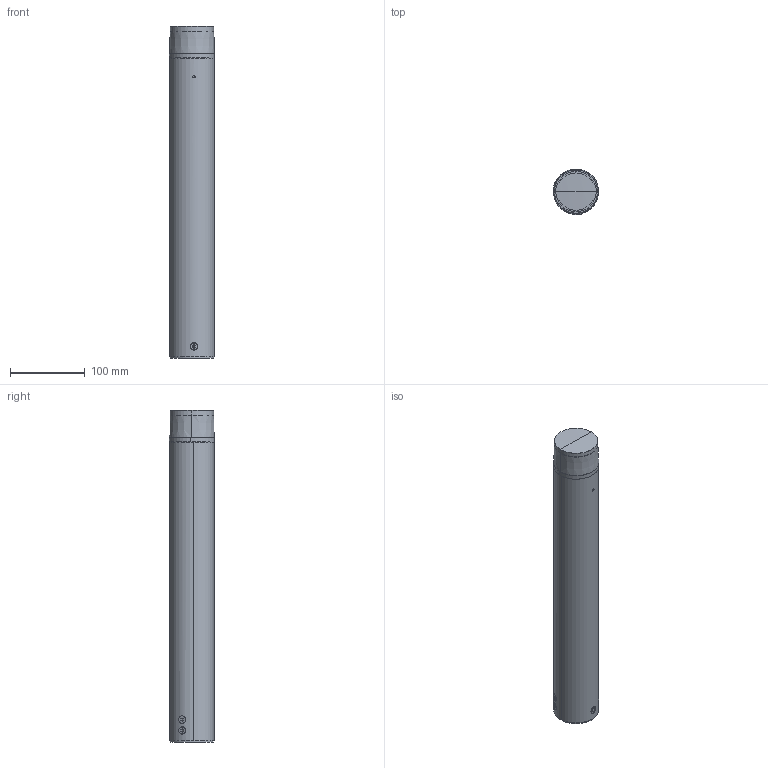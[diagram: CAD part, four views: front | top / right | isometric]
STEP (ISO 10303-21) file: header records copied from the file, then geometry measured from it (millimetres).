
FILE_DESCRIPTION((''),'2;1');
FILE_NAME('STIK-FLAT-H400_SW0001','2025-05-26T16:13:22',('elena.baldelli'),(''),'CREO PARAMETRIC BY PTC INC, 2020354','CREO PARAMETRIC BY PTC INC, 2020354','');
FILE_SCHEMA(('CONFIG_CONTROL_DESIGN'));
Length unit declared in the file: millimetre
Products named in the file (1): STIK-FLAT-H400_SW0001
Bounding box: 60.49 x 60.82 x 445 mm (x, y, z)
Surface area: 173904 mm2 (no closed solid volume)
Topology: 0 solids, 24 shells, 58 faces, 291 edges, 253 vertices
Faces by surface type: plane 18, cylinder 18, cone 12, torus 8, sphere 2
Entity records: 3570 total; most frequent: CARTESIAN_POINT 1218, DIRECTION 509, ORIENTED_EDGE 353, EDGE_CURVE 289, VERTEX_POINT 253, AXIS2_PLACEMENT_3D 210, CIRCLE 152, EDGE_LOOP 94
